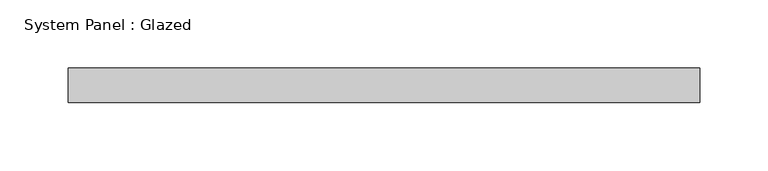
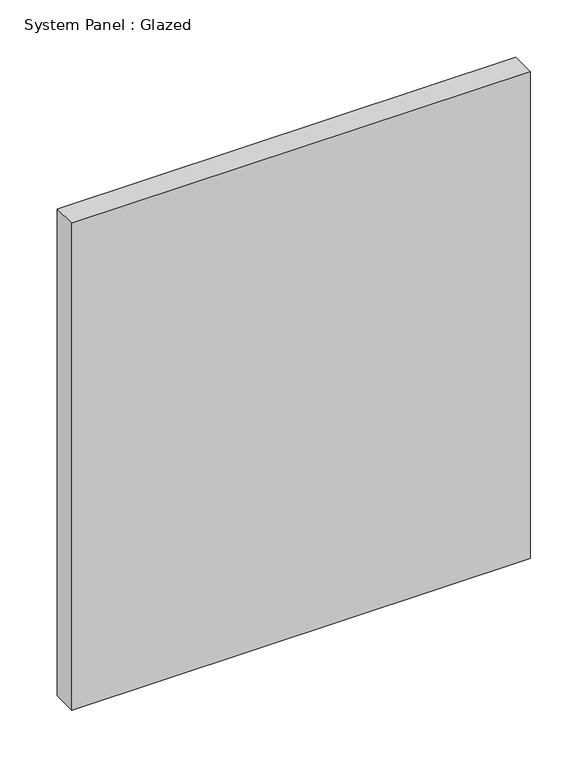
"""IFC4 building model written with IfcOpenShell, lengths in millimetres: plate geometry, System Panel : Glazed."""

from ifc_helpers import new_model, si_unit, origin, origin_with_axes, place, context, project, spatial, polyline, outline, extrude, source, transform, mapped, element, save


def system_panel_glazed_cf9f2373(model_context):
    return source(origin(), model_context, "Body", "SweptSolid", [
        extrude(outline(polyline([(231.775, 19.05), (-231.775, 19.05), (-231.775, 44.45), (231.775, 44.45), (231.775, 19.05)])), origin_with_axes(), (0.0, 0.0, 1.0), 520.7),
    ])


if __name__ == "__main__":
    model = new_model("IFC4")
    model_context = context("Model", 3, world=origin())
    ifc_project = project(units=[si_unit("LENGTHUNIT", "METRE", prefix="MILLI")], contexts=[model_context])
    site = spatial("IfcSite", under=ifc_project)
    building = spatial("IfcBuilding", under=site)
    placement = place(None, origin())
    system_panel_glazed_shape = system_panel_glazed_cf9f2373(model_context)
    element("IfcPlate", 1, ObjectType="System Panel : Glazed", at=placement, inside=building, context=model_context, shape_type="MappedRepresentation", body=[
        mapped(system_panel_glazed_shape, transform((0.0, 0.0, 0.0), x_axis=(1.0, 0.0, 0.0), y_axis=(0.0, 1.0, 0.0), z_axis=(0.0, 0.0, 1.0))),
    ])
    save(model, "model.ifc")
